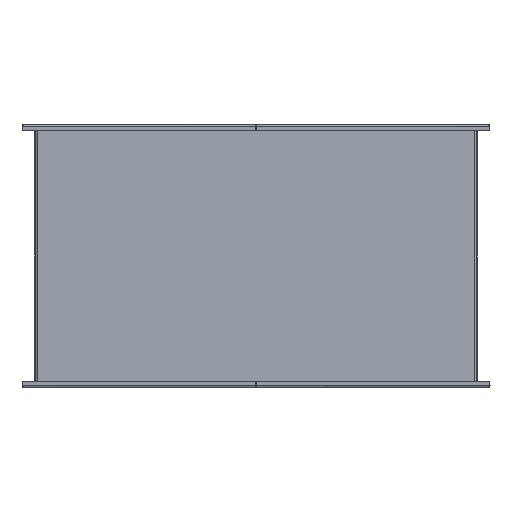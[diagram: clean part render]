
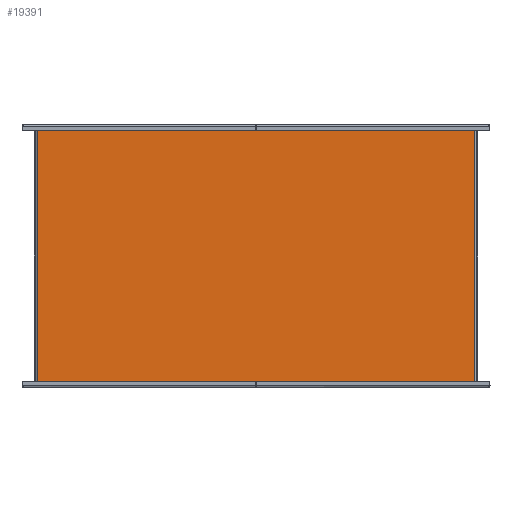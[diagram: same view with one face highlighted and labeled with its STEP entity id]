
A CAD part, front view. The second image highlights one B-rep face of the part: STEP entity #19391.
In plain terms, the highlighted planar face has unit normal (0, -1, 0).
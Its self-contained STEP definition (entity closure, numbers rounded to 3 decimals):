
#3979 = FACE_OUTER_BOUND ( 'NONE', #21651, .T. ) ;
#4571 = ORIENTED_EDGE ( 'NONE', *, *, #23152, .T. ) ;
#4593 = ORIENTED_EDGE ( 'NONE', *, *, #22956, .T. ) ;
#6652 = ORIENTED_EDGE ( 'NONE', *, *, #22808, .T. ) ;
#6703 = ORIENTED_EDGE ( 'NONE', *, *, #22964, .T. ) ;
#7302 = CARTESIAN_POINT ( 'NONE',  ( 298.7, -1., -176.2 ) ) ;
#7415 = CARTESIAN_POINT ( 'NONE',  ( -298.7, -1., 176.2 ) ) ;
#7553 = CARTESIAN_POINT ( 'NONE',  ( 298.7, -1., 176.2 ) ) ;
#9149 = CARTESIAN_POINT ( 'NONE',  ( 0., -1., 0. ) ) ;
#9151 = PLANE ( 'NONE',  #11270 ) ;
#9154 = DIRECTION ( 'NONE',  ( 0., 1., 0. ) ) ;
#9155 = DIRECTION ( 'NONE',  ( 0., 0., -1. ) ) ;
#10124 = LINE ( 'NONE', #18874, #10127 ) ;
#10127 = VECTOR ( 'NONE', #18876, 1000. ) ;
#10392 = LINE ( 'NONE', #15016, #10395 ) ;
#10395 = VECTOR ( 'NONE', #15017, 1000. ) ;
#10413 = LINE ( 'NONE', #15061, #10419 ) ;
#10419 = VECTOR ( 'NONE', #15062, 1000. ) ;
#10825 = LINE ( 'NONE', #15529, #10832 ) ;
#10832 = VECTOR ( 'NONE', #15528, 1000. ) ;
#11270 = AXIS2_PLACEMENT_3D ( 'NONE', #9149, #9154, #9155 ) ;
#13279 = CARTESIAN_POINT ( 'NONE',  ( -298.7, -1., -176.2 ) ) ;
#14553 = VERTEX_POINT ( 'NONE', #7302 ) ;
#14588 = VERTEX_POINT ( 'NONE', #7415 ) ;
#14619 = VERTEX_POINT ( 'NONE', #7553 ) ;
#14684 = VERTEX_POINT ( 'NONE', #13279 ) ;
#15016 = CARTESIAN_POINT ( 'NONE',  ( -298.7, -1., 178.5 ) ) ;
#15017 = DIRECTION ( 'NONE',  ( 0., 0., -1. ) ) ;
#15061 = CARTESIAN_POINT ( 'NONE',  ( 298.7, -1., -178.5 ) ) ;
#15062 = DIRECTION ( 'NONE',  ( 0., 0., 1. ) ) ;
#15528 = DIRECTION ( 'NONE',  ( -1., 0., 0. ) ) ;
#15529 = CARTESIAN_POINT ( 'NONE',  ( 298.7, -1., 176.2 ) ) ;
#18874 = CARTESIAN_POINT ( 'NONE',  ( -298.7, -1., -176.2 ) ) ;
#18876 = DIRECTION ( 'NONE',  ( 1., 0., 0. ) ) ;
#19391 = ADVANCED_FACE ( 'NONE', ( #3979 ), #9151, .F. ) ;
#21651 = EDGE_LOOP ( 'NONE', ( #4571, #4593, #6652, #6703 ) ) ;
#22808 = EDGE_CURVE ( 'NONE', #14684, #14553, #10124, .T. ) ;
#22956 = EDGE_CURVE ( 'NONE', #14588, #14684, #10392, .T. ) ;
#22964 = EDGE_CURVE ( 'NONE', #14553, #14619, #10413, .T. ) ;
#23152 = EDGE_CURVE ( 'NONE', #14619, #14588, #10825, .T. ) ;
